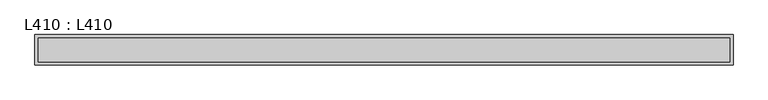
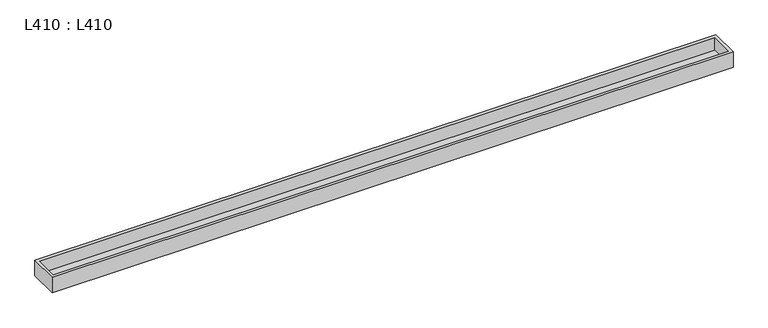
"""IFC4 building model written with IfcOpenShell, lengths in millimetres: light fixture geometry, L410 : L410."""

from ifc_helpers import new_model, si_unit, frame, origin, place, context, project, spatial, polyline, outline, extrude, source, transform, mapped, element, save


def l410_l410_d3af349a(model_context):
    return source(origin(), model_context, "Body", "SweptSolid", [
        extrude(outline(polyline([(558.0, 19.5), (558.0, -19.5), (-558.0, -19.5), (-558.0, 19.5), (558.0, 19.5)])), frame((0.0, 0.0, 2100.0), z_axis=(0.0, 0.0, 1.0), x_axis=(1.0, 0.0, 0.0)), (0.0, 0.0, 1.0), 5.0),
        extrude(outline(polyline([(563.0, 24.5), (563.0, -24.5), (-563.0, -24.5), (-563.0, 24.5), (563.0, 24.5)]), holes=[polyline([(558.0, 19.5), (-558.0, 19.5), (-558.0, -19.5), (558.0, -19.5), (558.0, 19.5)])]), frame((0.0, 0.0, 2100.0), z_axis=(0.0, 0.0, 1.0), x_axis=(1.0, 0.0, 0.0)), (0.0, 0.0, 1.0), 27.0),
    ])


if __name__ == "__main__":
    model = new_model("IFC4")
    model_context = context("Model", 3, world=origin())
    ifc_project = project(units=[si_unit("LENGTHUNIT", "METRE", prefix="MILLI")], contexts=[model_context])
    site = spatial("IfcSite", under=ifc_project)
    building = spatial("IfcBuilding", under=site)
    placement = place(None, origin())
    l410_l410_shape = l410_l410_d3af349a(model_context)
    element("IfcLightFixture", 1, ObjectType="L410 : L410", at=placement, inside=building, context=model_context, shape_type="MappedRepresentation", body=[
        mapped(l410_l410_shape, transform((0.0, 0.0, 0.0), x_axis=(1.0, 0.0, 0.0), y_axis=(0.0, 1.0, 0.0), z_axis=(0.0, 0.0, 1.0))),
    ])
    save(model, "model.ifc")
